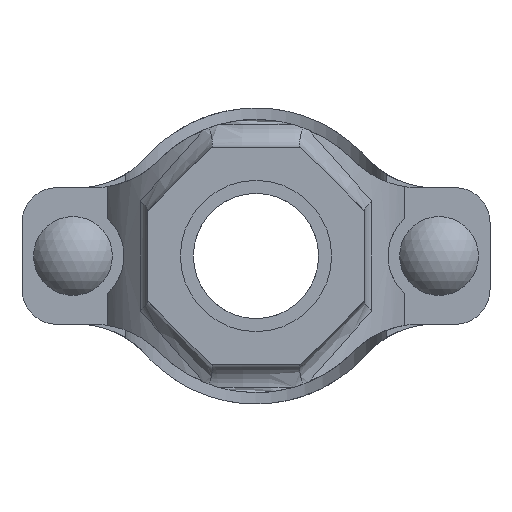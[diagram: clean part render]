
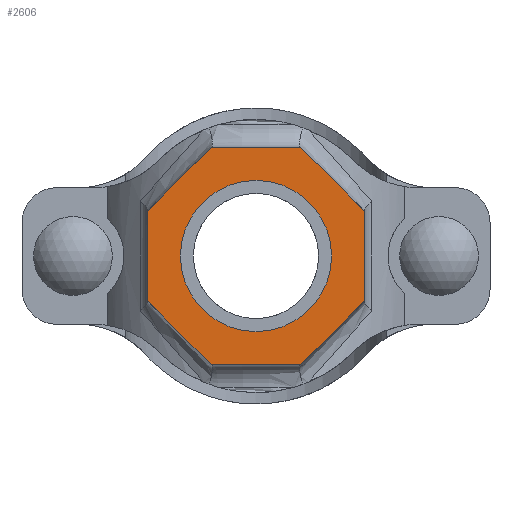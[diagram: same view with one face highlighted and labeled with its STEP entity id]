
A CAD part, front view. The second image highlights one B-rep face of the part: STEP entity #2606.
In plain terms, the highlighted planar face has unit normal (0, -1, 0) as drawn and (0, 1, 0) by its records, which use the part's own axes.
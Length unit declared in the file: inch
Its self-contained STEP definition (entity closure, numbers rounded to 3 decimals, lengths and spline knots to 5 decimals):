
#200=FACE_BOUND('',#476,.T.);
#322=FACE_OUTER_BOUND('',#475,.T.);
#475=EDGE_LOOP('',(#2183,#2184,#2185,#2186,#2187,#2188,#2189,#2190));
#476=EDGE_LOOP('',(#2191));
#615=LINE('',#4832,#801);
#618=LINE('',#4837,#804);
#620=LINE('',#4841,#806);
#622=LINE('',#4845,#808);
#656=LINE('',#5204,#842);
#658=LINE('',#5208,#844);
#660=LINE('',#5212,#846);
#662=LINE('',#5215,#848);
#801=VECTOR('',#3358,0.3937);
#804=VECTOR('',#3363,0.3937);
#806=VECTOR('',#3367,0.3937);
#808=VECTOR('',#3371,0.3937);
#842=VECTOR('',#3493,0.3937);
#844=VECTOR('',#3497,0.3937);
#846=VECTOR('',#3501,0.3937);
#848=VECTOR('',#3505,0.3937);
#934=CIRCLE('',#2870,0.83);
#1130=VERTEX_POINT('',#4829);
#1131=VERTEX_POINT('',#4831);
#1132=VERTEX_POINT('',#4835);
#1133=VERTEX_POINT('',#4839);
#1134=VERTEX_POINT('',#4843);
#1159=VERTEX_POINT('',#5037);
#1183=VERTEX_POINT('',#5203);
#1184=VERTEX_POINT('',#5207);
#1185=VERTEX_POINT('',#5211);
#1452=EDGE_CURVE('',#1131,#1130,#615,.T.);
#1455=EDGE_CURVE('',#1130,#1132,#618,.T.);
#1457=EDGE_CURVE('',#1132,#1133,#620,.T.);
#1459=EDGE_CURVE('',#1133,#1134,#622,.T.);
#1496=EDGE_CURVE('',#1159,#1159,#934,.T.);
#1528=EDGE_CURVE('',#1183,#1131,#656,.T.);
#1530=EDGE_CURVE('',#1184,#1183,#658,.T.);
#1532=EDGE_CURVE('',#1185,#1184,#660,.T.);
#1534=EDGE_CURVE('',#1134,#1185,#662,.T.);
#2183=ORIENTED_EDGE('',*,*,#1534,.T.);
#2184=ORIENTED_EDGE('',*,*,#1532,.T.);
#2185=ORIENTED_EDGE('',*,*,#1530,.T.);
#2186=ORIENTED_EDGE('',*,*,#1528,.T.);
#2187=ORIENTED_EDGE('',*,*,#1452,.T.);
#2188=ORIENTED_EDGE('',*,*,#1455,.T.);
#2189=ORIENTED_EDGE('',*,*,#1457,.T.);
#2190=ORIENTED_EDGE('',*,*,#1459,.T.);
#2191=ORIENTED_EDGE('',*,*,#1496,.T.);
#2341=PLANE('',#2893);
#2606=ADVANCED_FACE('',(#322,#200),#2341,.T.);
#2870=AXIS2_PLACEMENT_3D('',#5038,#3439,#3440);
#2893=AXIS2_PLACEMENT_3D('',#5216,#3506,#3507);
#3358=DIRECTION('',(0.,0.,1.));
#3363=DIRECTION('',(0.707,0.,0.707));
#3367=DIRECTION('',(1.,0.,0.));
#3371=DIRECTION('',(0.707,0.,-0.707));
#3439=DIRECTION('center_axis',(0.,-1.,0.));
#3440=DIRECTION('ref_axis',(-1.,0.,0.));
#3493=DIRECTION('',(-0.707,0.,0.707));
#3497=DIRECTION('',(-1.,0.,0.));
#3501=DIRECTION('',(-0.707,0.,-0.707));
#3505=DIRECTION('',(0.,0.,-1.));
#3506=DIRECTION('center_axis',(0.,1.,0.));
#3507=DIRECTION('ref_axis',(0.,0.,1.));
#4829=CARTESIAN_POINT('',(-1.19,3.,0.49291));
#4831=CARTESIAN_POINT('',(-1.19,3.,-0.49291));
#4832=CARTESIAN_POINT('',(-1.19,3.,0.49291));
#4835=CARTESIAN_POINT('',(-0.49291,3.,1.19));
#4837=CARTESIAN_POINT('',(-0.49291,3.,1.19));
#4839=CARTESIAN_POINT('',(0.49291,3.,1.19));
#4841=CARTESIAN_POINT('',(0.49291,3.,1.19));
#4843=CARTESIAN_POINT('',(1.19,3.,0.49291));
#4845=CARTESIAN_POINT('',(1.19,3.,0.49291));
#5037=CARTESIAN_POINT('',(0.83,3.,0.));
#5038=CARTESIAN_POINT('Origin',(0.,3.,0.));
#5203=CARTESIAN_POINT('',(-0.49291,3.,-1.19));
#5204=CARTESIAN_POINT('',(-1.19,3.,-0.49291));
#5207=CARTESIAN_POINT('',(0.49291,3.,-1.19));
#5208=CARTESIAN_POINT('',(-0.49291,3.,-1.19));
#5211=CARTESIAN_POINT('',(1.19,3.,-0.49291));
#5212=CARTESIAN_POINT('',(0.49291,3.,-1.19));
#5215=CARTESIAN_POINT('',(1.19,3.,-0.49291));
#5216=CARTESIAN_POINT('Origin',(0.,3.,0.));
